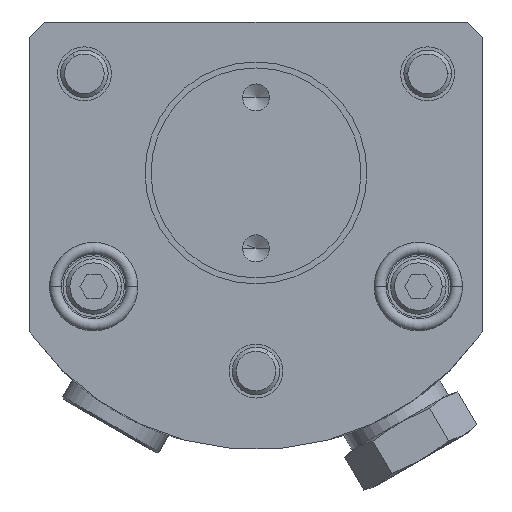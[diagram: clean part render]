
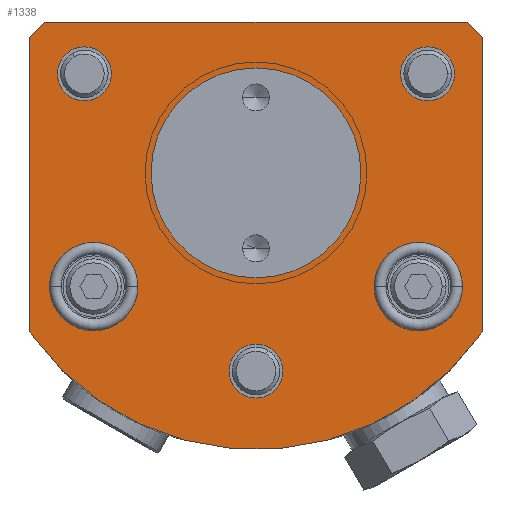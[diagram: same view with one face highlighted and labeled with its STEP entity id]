
A CAD part, front view. The second image highlights one B-rep face of the part: STEP entity #1338.
In plain terms, the highlighted planar face has unit normal (0, -1, 0).
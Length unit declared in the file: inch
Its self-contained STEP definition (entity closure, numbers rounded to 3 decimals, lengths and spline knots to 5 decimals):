
#1=DIRECTION('',(-0.707,0.,0.707));
#2=VECTOR('',#1,0.10607);
#3=CARTESIAN_POINT('',(1.125,0.,0.675));
#4=LINE('',#3,#2);
#5=DIRECTION('',(0.,0.,-1.));
#6=VECTOR('',#5,1.46557);
#7=CARTESIAN_POINT('',(1.125,0.,0.675));
#8=LINE('',#7,#6);
#9=CARTESIAN_POINT('',(0.,0.,0.));
#10=DIRECTION('',(0.,1.,0.));
#11=DIRECTION('',(0.818,0.,-0.575));
#12=AXIS2_PLACEMENT_3D('',#9,#10,#11);
#14=DIRECTION('',(0.,0.,1.));
#15=VECTOR('',#14,1.46557);
#16=CARTESIAN_POINT('',(-1.125,0.,-0.79057));
#17=LINE('',#16,#15);
#18=DIRECTION('',(-0.707,0.,-0.707));
#19=VECTOR('',#18,0.10607);
#20=CARTESIAN_POINT('',(-1.05,0.,0.75));
#21=LINE('',#20,#19);
#22=DIRECTION('',(1.,0.,0.));
#23=VECTOR('',#22,2.1);
#24=CARTESIAN_POINT('',(-1.05,0.,0.75));
#25=LINE('',#24,#23);
#26=CARTESIAN_POINT('',(0.,0.,-0.985));
#27=DIRECTION('',(0.,-1.,0.));
#28=DIRECTION('',(1.,0.,0.));
#29=AXIS2_PLACEMENT_3D('',#26,#27,#28);
#31=CARTESIAN_POINT('',(0.,0.,-0.985));
#32=DIRECTION('',(0.,-1.,0.));
#33=DIRECTION('',(-1.,0.,0.));
#34=AXIS2_PLACEMENT_3D('',#31,#32,#33);
#36=CARTESIAN_POINT('',(-0.85304,0.,0.4925));
#37=DIRECTION('',(0.,-1.,0.));
#38=DIRECTION('',(-0.5,0.,-0.866));
#39=AXIS2_PLACEMENT_3D('',#36,#37,#38);
#41=CARTESIAN_POINT('',(-0.85304,0.,0.4925));
#42=DIRECTION('',(0.,-1.,0.));
#43=DIRECTION('',(0.5,0.,0.866));
#44=AXIS2_PLACEMENT_3D('',#41,#42,#43);
#46=CARTESIAN_POINT('',(0.85304,0.,0.4925));
#47=DIRECTION('',(0.,-1.,0.));
#48=DIRECTION('',(-0.5,0.,0.866));
#49=AXIS2_PLACEMENT_3D('',#46,#47,#48);
#51=CARTESIAN_POINT('',(0.85304,0.,0.4925));
#52=DIRECTION('',(0.,-1.,0.));
#53=DIRECTION('',(0.5,0.,-0.866));
#54=AXIS2_PLACEMENT_3D('',#51,#52,#53);
#56=CARTESIAN_POINT('',(0.,0.,0.));
#57=DIRECTION('',(0.,-1.,0.));
#58=DIRECTION('',(0.,0.,-1.));
#59=AXIS2_PLACEMENT_3D('',#56,#57,#58);
#61=CARTESIAN_POINT('',(0.,0.,0.));
#62=DIRECTION('',(0.,-1.,0.));
#63=DIRECTION('',(0.,0.,1.));
#64=AXIS2_PLACEMENT_3D('',#61,#62,#63);
#66=CARTESIAN_POINT('',(0.80686,0.,-0.56497));
#67=DIRECTION('',(0.,1.,0.));
#68=DIRECTION('',(-1.,0.,0.));
#69=AXIS2_PLACEMENT_3D('',#66,#67,#68);
#71=CARTESIAN_POINT('',(0.80686,0.,-0.56497));
#72=DIRECTION('',(0.,1.,0.));
#73=DIRECTION('',(1.,0.,0.));
#74=AXIS2_PLACEMENT_3D('',#71,#72,#73);
#76=CARTESIAN_POINT('',(-0.80686,0.,-0.56497));
#77=DIRECTION('',(0.,-1.,0.));
#78=DIRECTION('',(1.,0.,0.));
#79=AXIS2_PLACEMENT_3D('',#76,#77,#78);
#81=CARTESIAN_POINT('',(-0.80686,0.,-0.56497));
#82=DIRECTION('',(0.,-1.,0.));
#83=DIRECTION('',(-1.,0.,0.));
#84=AXIS2_PLACEMENT_3D('',#81,#82,#83);
#1021=CARTESIAN_POINT('',(1.125,0.,-0.79057));
#1022=CARTESIAN_POINT('',(-1.125,0.,-0.79057));
#1023=VERTEX_POINT('',#1021);
#1024=VERTEX_POINT('',#1022);
#1037=CARTESIAN_POINT('',(1.125,0.,0.675));
#1038=CARTESIAN_POINT('',(1.05,0.,0.75));
#1039=VERTEX_POINT('',#1037);
#1040=VERTEX_POINT('',#1038);
#1045=CARTESIAN_POINT('',(-1.05,0.,0.75));
#1046=CARTESIAN_POINT('',(-1.125,0.,0.675));
#1047=VERTEX_POINT('',#1045);
#1048=VERTEX_POINT('',#1046);
#1061=CARTESIAN_POINT('',(0.134,0.,-0.985));
#1062=CARTESIAN_POINT('',(-0.134,0.,-0.985));
#1063=VERTEX_POINT('',#1061);
#1064=VERTEX_POINT('',#1062);
#1093=CARTESIAN_POINT('',(-0.92004,0.,0.37645));
#1094=CARTESIAN_POINT('',(-0.78604,0.,0.60855));
#1095=VERTEX_POINT('',#1093);
#1096=VERTEX_POINT('',#1094);
#1101=CARTESIAN_POINT('',(0.78604,0.,0.60855));
#1102=CARTESIAN_POINT('',(0.92004,0.,0.37645));
#1103=VERTEX_POINT('',#1101);
#1104=VERTEX_POINT('',#1102);
#1165=CARTESIAN_POINT('',(0.,0.,-0.52165));
#1166=CARTESIAN_POINT('',(0.,0.,0.52165));
#1167=VERTEX_POINT('',#1165);
#1168=VERTEX_POINT('',#1166);
#1235=CARTESIAN_POINT('',(0.58736,0.,-0.56497));
#1236=CARTESIAN_POINT('',(1.02636,0.,-0.56497));
#1237=VERTEX_POINT('',#1235);
#1238=VERTEX_POINT('',#1236);
#1261=CARTESIAN_POINT('',(-0.58736,0.,-0.56497));
#1262=VERTEX_POINT('',#1261);
#1263=CARTESIAN_POINT('',(-1.02636,0.,-0.56497));
#1264=VERTEX_POINT('',#1263);
#1283=CARTESIAN_POINT('',(0.,0.,0.));
#1284=DIRECTION('',(0.,1.,0.));
#1285=DIRECTION('',(1.,0.,0.));
#1286=AXIS2_PLACEMENT_3D('',#1283,#1284,#1285);
#1287=PLANE('',#1286);
#1289=ORIENTED_EDGE('',*,*,#1288,.F.);
#1291=ORIENTED_EDGE('',*,*,#1290,.T.);
#1293=ORIENTED_EDGE('',*,*,#1292,.T.);
#1295=ORIENTED_EDGE('',*,*,#1294,.T.);
#1297=ORIENTED_EDGE('',*,*,#1296,.F.);
#1299=ORIENTED_EDGE('',*,*,#1298,.T.);
#1300=EDGE_LOOP('',(#1289,#1291,#1293,#1295,#1297,#1299));
#1301=FACE_OUTER_BOUND('',#1300,.F.);
#1303=ORIENTED_EDGE('',*,*,#1302,.T.);
#1305=ORIENTED_EDGE('',*,*,#1304,.T.);
#1306=EDGE_LOOP('',(#1303,#1305));
#1307=FACE_BOUND('',#1306,.F.);
#1309=ORIENTED_EDGE('',*,*,#1308,.T.);
#1311=ORIENTED_EDGE('',*,*,#1310,.T.);
#1312=EDGE_LOOP('',(#1309,#1311));
#1313=FACE_BOUND('',#1312,.F.);
#1315=ORIENTED_EDGE('',*,*,#1314,.T.);
#1317=ORIENTED_EDGE('',*,*,#1316,.T.);
#1318=EDGE_LOOP('',(#1315,#1317));
#1319=FACE_BOUND('',#1318,.F.);
#1321=ORIENTED_EDGE('',*,*,#1320,.T.);
#1323=ORIENTED_EDGE('',*,*,#1322,.T.);
#1324=EDGE_LOOP('',(#1321,#1323));
#1325=FACE_BOUND('',#1324,.F.);
#1327=ORIENTED_EDGE('',*,*,#1326,.F.);
#1329=ORIENTED_EDGE('',*,*,#1328,.F.);
#1330=EDGE_LOOP('',(#1327,#1329));
#1331=FACE_BOUND('',#1330,.F.);
#1333=ORIENTED_EDGE('',*,*,#1332,.T.);
#1335=ORIENTED_EDGE('',*,*,#1334,.T.);
#1336=EDGE_LOOP('',(#1333,#1335));
#1337=FACE_BOUND('',#1336,.F.);
#1338=ADVANCED_FACE('',(#1301,#1307,#1313,#1319,#1325,#1331,#1337),#1287,.F.);
#13=CIRCLE('',#12,1.375);
#30=CIRCLE('',#29,0.134);
#35=CIRCLE('',#34,0.134);
#40=CIRCLE('',#39,0.134);
#45=CIRCLE('',#44,0.134);
#50=CIRCLE('',#49,0.134);
#55=CIRCLE('',#54,0.134);
#60=CIRCLE('',#59,0.52165);
#65=CIRCLE('',#64,0.52165);
#70=CIRCLE('',#69,0.2195);
#75=CIRCLE('',#74,0.2195);
#80=CIRCLE('',#79,0.2195);
#85=CIRCLE('',#84,0.2195);
#1288=EDGE_CURVE('',#1039,#1040,#4,.T.);
#1290=EDGE_CURVE('',#1039,#1023,#8,.T.);
#1292=EDGE_CURVE('',#1023,#1024,#13,.T.);
#1294=EDGE_CURVE('',#1024,#1048,#17,.T.);
#1296=EDGE_CURVE('',#1047,#1048,#21,.T.);
#1298=EDGE_CURVE('',#1047,#1040,#25,.T.);
#1302=EDGE_CURVE('',#1063,#1064,#30,.T.);
#1304=EDGE_CURVE('',#1064,#1063,#35,.T.);
#1308=EDGE_CURVE('',#1095,#1096,#40,.T.);
#1310=EDGE_CURVE('',#1096,#1095,#45,.T.);
#1314=EDGE_CURVE('',#1103,#1104,#50,.T.);
#1316=EDGE_CURVE('',#1104,#1103,#55,.T.);
#1320=EDGE_CURVE('',#1167,#1168,#60,.T.);
#1322=EDGE_CURVE('',#1168,#1167,#65,.T.);
#1326=EDGE_CURVE('',#1237,#1238,#70,.T.);
#1328=EDGE_CURVE('',#1238,#1237,#75,.T.);
#1332=EDGE_CURVE('',#1262,#1264,#80,.T.);
#1334=EDGE_CURVE('',#1264,#1262,#85,.T.);
